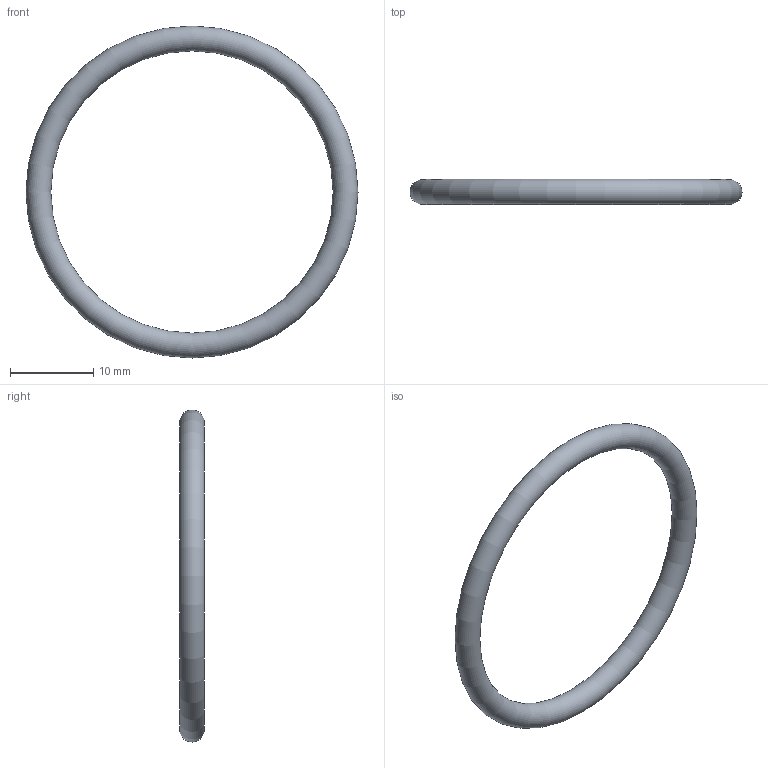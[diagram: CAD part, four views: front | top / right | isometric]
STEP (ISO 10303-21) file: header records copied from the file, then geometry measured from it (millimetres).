
FILE_DESCRIPTION( ( 'STEP AP203' ), '1' );
FILE_NAME( 'C:/Temp/Ganter_Step_05_03_2020/data/3_5/or638/O-Ring OR638-34.00-3.00-70.stp', '2020-03-12T13:44:30', ( 'License CC BY-ND 4.0' ), ( 'CADENAS' ), ' ', 'PARTsolutions', ' ' );
FILE_SCHEMA( ( 'CONFIG_CONTROL_DESIGN' ) );
Length unit declared in the file: millimetre
Products named in the file (1): _O-Ring OR638-34.00-3.00-70
Bounding box: 40 x 3 x 40 mm (x, y, z)
Volume: 821.6 mm3; surface area: 1095.5 mm2
Topology: 1 solids, 1 shells, 1 faces, 2 edges, 1 vertices
Faces by surface type: torus 1
Entity records: 62 total; most frequent: CC_DESIGN_PERSON_AND_ORGANIZATION_ASSIGNMENT 5, PERSON_AND_ORGANIZATION_ROLE 4, DIRECTION 4, CARTESIAN_POINT 3, DATE_TIME_ROLE 2, CC_DESIGN_DATE_AND_TIME_ASSIGNMENT 2, AXIS2_PLACEMENT_3D 2, DIMENSIONAL_EXPONENTS 2
